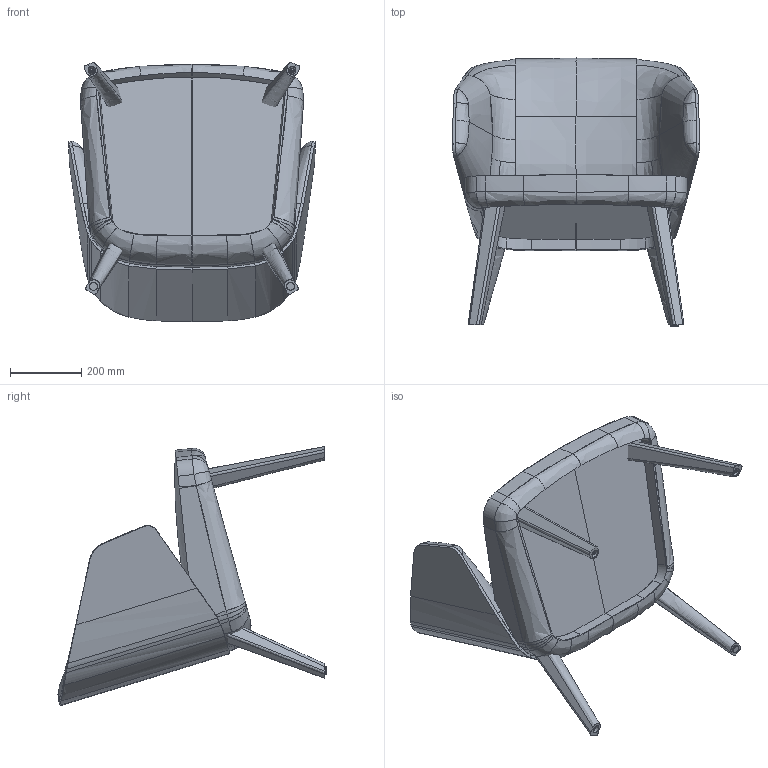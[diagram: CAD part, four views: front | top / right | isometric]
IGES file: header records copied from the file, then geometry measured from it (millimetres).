
Start section: SolidWorks IGES file using analytic representation for surfaces
Global section: file name: G:\Product Info\Back Me Up Salon & Lounge\3d\igs\BMU Lounge houten poten.IGS; native system: SolidWorks 2016; preprocessor: SolidWorks 2016; author: remko; date: 161213.181350; units: millimetre
Bounding box: 691.85 x 751.09 x 726.62 mm (x, y, z)
Surface area: 2130980.4 mm2 (no closed solid volume)
Topology: 0 solids, 0 shells, 617 faces, 19568 edges, 19557 vertices
Faces by surface type: revolution 458, bspline 159
